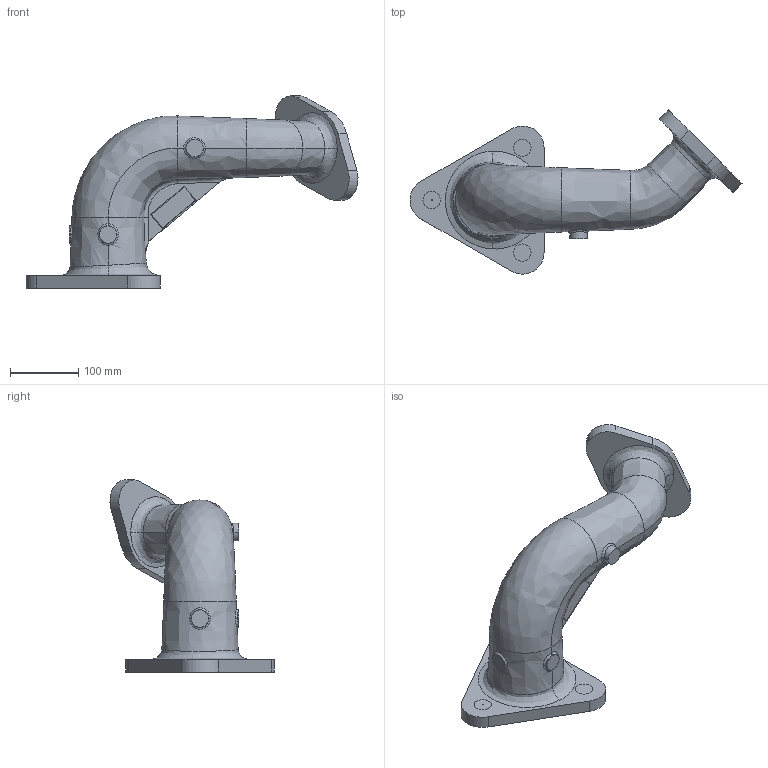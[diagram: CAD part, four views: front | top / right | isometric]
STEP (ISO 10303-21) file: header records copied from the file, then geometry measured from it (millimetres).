
FILE_DESCRIPTION(('CAx-IF Rec.Pracs.---Model Styling and Organization---1.2---2011-12-15','CAx-IF Rec.Pracs.---Geometric and Assembly Validation Properties---4.1---2014-06-16','CAx-IF Rec.Pracs.---PMI Polyline Presentation---2.0---2013-05-24','CAx-IF Rec.Pracs.---Representation and Presentation of Product Manufacturing Information (PMI)---3.7b--2014-02-05','CAx-IF Rec.Pracs.---PMI Polyline Presentation---2.0---2013-05-24'),'2;1');
FILE_NAME('CASTING SPECIMEN ADPAG 1.1-core.stp','2020-04-01T18:50:05+04:00',(''),(''),'STEP Interface 4.3 by CT CoreTechnologie','3D_Evolution4.3 by CT CoreTechnologie','');
FILE_SCHEMA(('AP242_MANAGED_MODEL_BASED_3D_ENGINEERING_MIM_LF {1 0 10303 442 1 1 4 }'));
Length unit declared in the file: millimetre
Products named in the file (1): PART3
Bounding box: 487.59 x 240.92 x 282.36 mm (x, y, z)
Volume: 1512011.9 mm3; surface area: 362380.5 mm2
Topology: 1 solids, 9 shells, 94 faces, 268 edges, 224 vertices
Faces by surface type: bspline 50, plane 26, cylinder 18
Entity records: 25953 total; most frequent: CARTESIAN_POINT 21443, POLYLINE 618, DIRECTION 433, ORIENTED_EDGE 430, EDGE_CURVE 228, AXIS2_PLACEMENT_3D 161, VERTEX_POINT 148, PRESENTATION_STYLE_ASSIGNMENT 143
